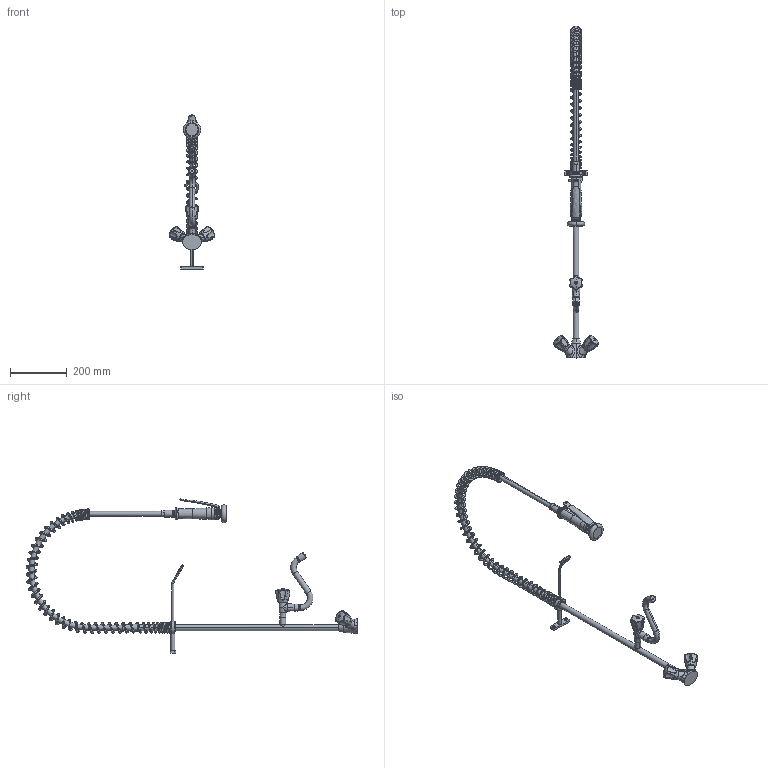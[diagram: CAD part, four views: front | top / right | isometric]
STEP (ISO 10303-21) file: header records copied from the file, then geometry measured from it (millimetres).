
FILE_DESCRIPTION((''),'2;1');
FILE_NAME('K_24_41_61_000C06','2012-01-09T',('HEF'),(''),'PRO/ENGINEER BY PARAMETRIC TECHNOLOGY CORPORATION, 2011080','PRO/ENGINEER BY PARAMETRIC TECHNOLOGY CORPORATION, 2011080','');
FILE_SCHEMA(('AUTOMOTIVE_DESIGN_CC2 { 1 2 10303 214 -1 1 5 2 }'));
Products named in the file (1): K_24_41_61_000C06
Bounding box: 160.41 x 1165.77 x 541.45 mm (x, y, z)
Volume: 1325391.7 mm3; surface area: 327264.9 mm2
Topology: 2 solids, 7 shells, 1262 faces, 2889 edges, 1665 vertices
Faces by surface type: cylinder 308, bspline 300, plane 290, torus 220, sphere 76, cone 58, revolution 6, extrusion 4
Entity records: 106471 total; most frequent: CARTESIAN_POINT 66948, ORIENTED_EDGE 5770, DIRECTION 4872, EDGE_CURVE 2885, FILL_AREA_STYLE_COLOUR 2209, FILL_AREA_STYLE 2209, SURFACE_STYLE_FILL_AREA 2209, SURFACE_SIDE_STYLE 2209
